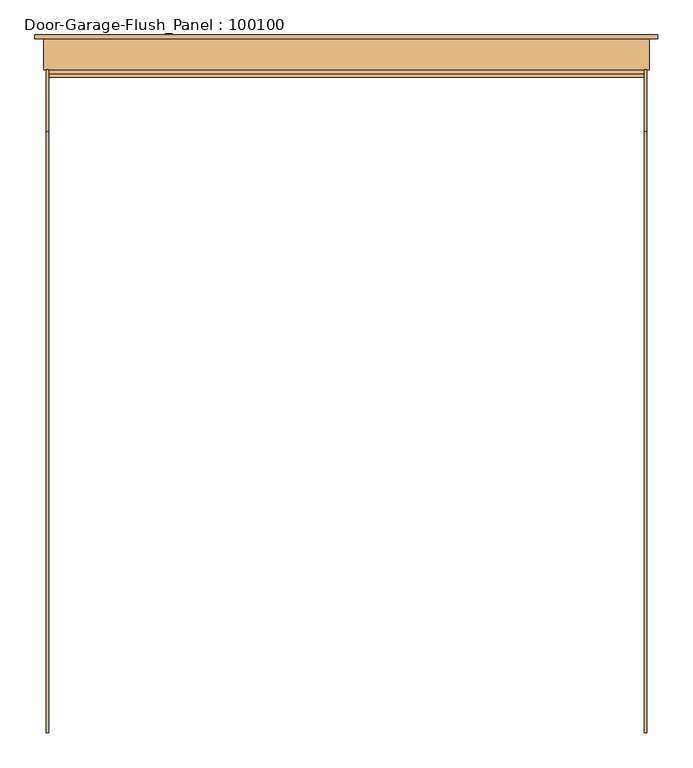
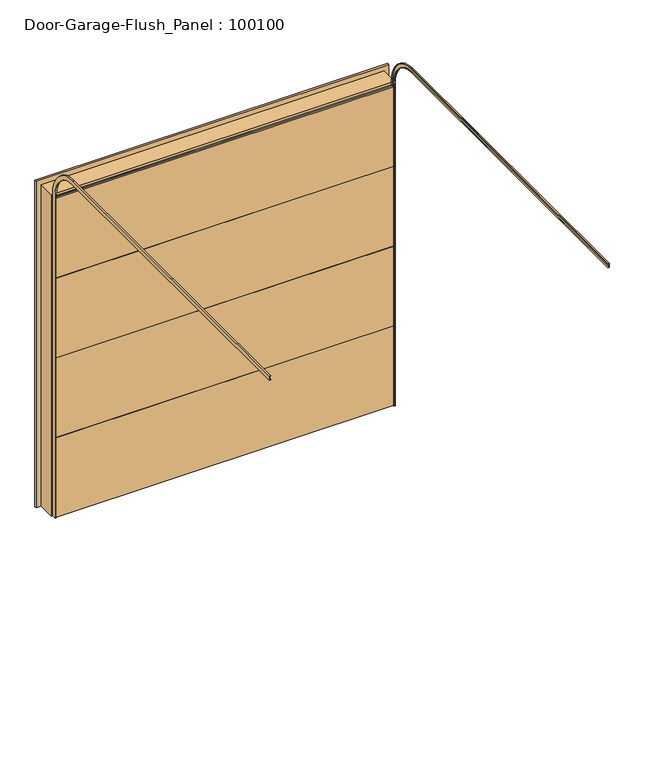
"""IFC4 building model written with IfcOpenShell, lengths in millimetres: door geometry, Door-Garage-Flush_Panel : 100100."""

from ifc_helpers import new_model, si_unit, frame, origin, place, context, project, spatial, polyline, circle_curve, outline, extrude, source, transform, mapped, element, save
from ifc_brep_helpers import plane_surface, cylinder_surface, revolved_surface, advanced_brep


def door_garage_flush_panel_100100_77b9260a(model_context):
    return source(origin(), model_context, "Body", "SolidModel", [
        extrude(outline(polyline([(-104.775, 3051.175), (-104.775, 3044.825), (-82.55, 3044.825), (-82.55, 2286.0), (-98.425, 2286.0), (-98.425, 2292.35), (-120.65, 2292.35), (-120.65, 3051.175), (-104.775, 3051.175)])), frame((-1524.0, 0.0, 0.0), z_axis=(1.0, 0.0, 0.0), x_axis=(0.0, 1.0, 0.0)), (0.0, 0.0, 1.0), 3048.0),
        extrude(outline(polyline([(-104.775, 2289.175), (-104.775, 2282.825), (-82.55, 2282.825), (-82.55, 1524.0), (-98.425, 1524.0), (-98.425, 1530.35), (-120.65, 1530.35), (-120.65, 2289.175), (-104.775, 2289.175)])), frame((-1524.0, 0.0, 0.0), z_axis=(1.0, 0.0, 0.0), x_axis=(0.0, 1.0, 0.0)), (0.0, 0.0, 1.0), 3048.0),
        extrude(outline(polyline([(-104.775, 1527.175), (-104.775, 1520.825), (-82.55, 1520.825), (-82.55, 762.0), (-98.425, 762.0), (-98.425, 768.35), (-120.65, 768.35), (-120.65, 1527.175), (-104.775, 1527.175)])), frame((-1524.0, 0.0, 0.0), z_axis=(1.0, 0.0, 0.0), x_axis=(0.0, 1.0, 0.0)), (0.0, 0.0, 1.0), 3048.0),
        extrude(outline(polyline([(-104.775, 765.175), (-104.775, 758.825), (-82.55, 758.825), (-82.55, 0.0), (-98.425, 0.0), (-98.425, 6.35), (-120.65, 6.35), (-120.65, 765.175), (-104.775, 765.175)])), frame((-1524.0, 0.0, 0.0), z_axis=(1.0, 0.0, 0.0), x_axis=(0.0, 1.0, 0.0)), (0.0, 0.0, 1.0), 3048.0),
        advanced_brep(
        [(1536.7, -3473.45, 3352.8), (1536.7, -3473.45, 3390.9), (1524.0, -3473.45, 3390.9), (1524.0, -3473.45, 3387.725), (1533.525, -3473.45, 3387.725), (1533.525, -3473.45, 3355.975), (1524.0, -3473.45, 3355.975), (1524.0, -3473.45, 3352.8), (1536.7, -400.05, 3352.8), (1536.7, -120.65, 3073.4), (1536.7, -120.65, 0.0), (1536.7, -82.55, 0.0), (1536.7, -82.55, 3073.4), (1536.7, -400.05, 3390.9), (1524.0, -400.05, 3390.9), (1524.0, -82.55, 3073.4), (1524.0, -82.55, 0.0), (1524.0, -85.725, 0.0), (1524.0, -85.725, 3073.4), (1524.0, -400.05, 3387.725), (1533.525, -400.05, 3387.725), (1533.525, -85.725, 3073.4), (1533.525, -85.725, 0.0), (1533.525, -117.475, 0.0), (1533.525, -117.475, 3073.4), (1533.525, -400.05, 3355.975), (1524.0, -400.05, 3355.975), (1524.0, -117.475, 3073.4), (1524.0, -117.475, 0.0), (1524.0, -120.65, 0.0), (1524.0, -120.65, 3073.4), (1524.0, -400.05, 3352.8)],
        [
            (0, 1),
            (1, 2),
            (2, 3),
            (3, 4),
            (4, 5),
            (5, 6),
            (6, 7),
            (7, 0),
            (0, 8),
            (8, 9, circle_curve(frame((1536.7, -400.05, 3073.4), z_axis=(-1.0, 0.0, 0.0), x_axis=(0.0, 0.0, 1.0)), 279.4)),
            (9, 10),
            (10, 11),
            (11, 12),
            (12, 13, circle_curve(frame((1536.7, -400.05, 3073.4), z_axis=(1.0, 0.0, 0.0), x_axis=(0.0, 0.0, 1.0)), 317.5)),
            (13, 1),
            (13, 14),
            (14, 2),
            (14, 15, circle_curve(frame((1524.0, -400.05, 3073.4), z_axis=(-1.0, 0.0, 0.0), x_axis=(0.0, 0.0, 1.0)), 317.5)),
            (15, 16),
            (16, 17),
            (17, 18),
            (18, 19, circle_curve(frame((1524.0, -400.05, 3073.4), z_axis=(1.0, 0.0, 0.0), x_axis=(0.0, 0.0, 1.0)), 314.325)),
            (19, 3),
            (19, 20),
            (20, 4),
            (20, 21, circle_curve(frame((1533.525, -400.05, 3073.4), z_axis=(-1.0, 0.0, 0.0), x_axis=(0.0, 0.0, 1.0)), 314.325)),
            (21, 22),
            (22, 23),
            (23, 24),
            (24, 25, circle_curve(frame((1533.525, -400.05, 3073.4), z_axis=(1.0, 0.0, 0.0), x_axis=(0.0, 0.0, 1.0)), 282.575)),
            (25, 5),
            (25, 26),
            (26, 6),
            (26, 27, circle_curve(frame((1524.0, -400.05, 3073.4), z_axis=(-1.0, 0.0, 0.0), x_axis=(0.0, 0.0, 1.0)), 282.575)),
            (27, 28),
            (28, 29),
            (29, 30),
            (30, 31, circle_curve(frame((1524.0, -400.05, 3073.4), z_axis=(1.0, 0.0, 0.0), x_axis=(0.0, 0.0, 1.0)), 279.4)),
            (31, 7),
            (31, 8),
            (12, 15),
            (18, 21),
            (24, 27),
            (30, 9),
            (10, 29),
            (28, 23),
            (22, 17),
            (16, 11),
        ],
        [
            plane_surface(frame((0.0, -3473.45, 3352.8), z_axis=(0.0, -1.0, 0.0), x_axis=(1.0, 0.0, 0.0))),
            plane_surface(frame((1536.7, -3473.45, 3352.8), z_axis=(1.0, 0.0, 0.0), x_axis=(0.0, 1.0, 0.0))),
            plane_surface(frame((1536.7, -3473.45, 3390.9), z_axis=(0.0, 0.0, 1.0), x_axis=(0.0, 1.0, 0.0))),
            plane_surface(frame((1524.0, -3473.45, 3390.9), z_axis=(-1.0, 0.0, 0.0), x_axis=(0.0, 1.0, 0.0))),
            plane_surface(frame((1524.0, -3473.45, 3387.725), z_axis=(0.0, 0.0, -1.0), x_axis=(0.0, 1.0, 0.0))),
            plane_surface(frame((1533.525, -3473.45, 3387.725), z_axis=(-1.0, 0.0, 0.0), x_axis=(0.0, 1.0, 0.0))),
            plane_surface(frame((1533.525, -3473.45, 3355.975), z_axis=(0.0, 0.0, 1.0), x_axis=(0.0, 1.0, 0.0))),
            plane_surface(frame((1524.0, -3473.45, 3355.975), z_axis=(-1.0, 0.0, 0.0), x_axis=(0.0, 1.0, 0.0))),
            plane_surface(frame((1524.0, -3473.45, 3352.8), z_axis=(0.0, 0.0, -1.0), x_axis=(0.0, 1.0, 0.0))),
            cylinder_surface(frame((0.0, -400.05, 3073.4), z_axis=(-1.0, 0.0, 0.0), x_axis=(0.0, 0.0, 1.0)), 317.5),
            revolved_surface(polyline([(1524.0, -400.05, 3387.725), (1533.525, -400.05, 3387.725)]), (0.0, -400.05, 3073.4), (-1.0, 0.0, 0.0)),
            cylinder_surface(frame((0.0, -400.05, 3073.4), z_axis=(-1.0, 0.0, 0.0), x_axis=(0.0, 0.0, 1.0)), 282.575),
            revolved_surface(polyline([(1524.0, -400.05, 3352.8), (1536.7, -400.05, 3352.8)]), (0.0, -400.05, 3073.4), (-1.0, 0.0, 0.0)),
            plane_surface(frame((0.0, -120.65, 0.0), z_axis=(0.0, 0.0, -1.0), x_axis=(1.0, 0.0, 0.0))),
            plane_surface(frame((1536.7, -82.55, 3073.4), z_axis=(0.0, 1.0, 0.0), x_axis=(0.0, 0.0, -1.0))),
            plane_surface(frame((1524.0, -85.725, 3073.4), z_axis=(0.0, -1.0, 0.0), x_axis=(0.0, 0.0, -1.0))),
            plane_surface(frame((1533.525, -117.475, 3073.4), z_axis=(0.0, 1.0, 0.0), x_axis=(0.0, 0.0, -1.0))),
            plane_surface(frame((1524.0, -120.65, 3073.4), z_axis=(0.0, -1.0, 0.0), x_axis=(0.0, 0.0, -1.0))),
        ],
        [
            (0, [[1, 2, 3, 4, 5, 6, 7, 8]]),
            (1, [[-1, 9, 10, 11, 12, 13, 14, 15]]),
            (2, [[-2, -15, 16, 17]]),
            (3, [[-3, -17, 18, 19, 20, 21, 22, 23]]),
            (4, [[-4, -23, 24, 25]]),
            (5, [[-5, -25, 26, 27, 28, 29, 30, 31]]),
            (6, [[-6, -31, 32, 33]]),
            (7, [[-7, -33, 34, 35, 36, 37, 38, 39]]),
            (8, [[-8, -39, 40, -9]]),
            (9, [[-18, -16, -14, 41]]),
            (10, [[-26, -24, -22, 42]]),
            (11, [[-34, -32, -30, 43]]),
            (12, [[-10, -40, -38, 44]]),
            (13, [[45, -36, 46, -28, 47, -20, 48, -12]]),
            (14, [[-41, -13, -48, -19]]),
            (15, [[-42, -21, -47, -27]]),
            (16, [[-43, -29, -46, -35]]),
            (17, [[-44, -37, -45, -11]]),
        ],
    ),
        advanced_brep(
        [(-1536.7, -3473.45, 3352.8), (-1524.0, -3473.45, 3352.8), (-1524.0, -3473.45, 3355.975), (-1533.525, -3473.45, 3355.975), (-1533.525, -3473.45, 3387.725), (-1524.0, -3473.45, 3387.725), (-1524.0, -3473.45, 3390.9), (-1536.7, -3473.45, 3390.9), (-1536.7, -400.05, 3352.8), (-1524.0, -400.05, 3352.8), (-1524.0, -120.65, 3073.4), (-1524.0, -120.65, 0.0), (-1524.0, -117.475, 0.0), (-1524.0, -117.475, 3073.4), (-1524.0, -400.05, 3355.975), (-1533.525, -400.05, 3355.975), (-1533.525, -117.475, 3073.4), (-1533.525, -117.475, 0.0), (-1533.525, -85.725, 0.0), (-1533.525, -85.725, 3073.4), (-1533.525, -400.05, 3387.725), (-1524.0, -400.05, 3387.725), (-1524.0, -85.725, 3073.4), (-1524.0, -85.725, 0.0), (-1524.0, -82.55, 0.0), (-1524.0, -82.55, 3073.4), (-1524.0, -400.05, 3390.9), (-1536.7, -400.05, 3390.9), (-1536.7, -82.55, 3073.4), (-1536.7, -82.55, 0.0), (-1536.7, -120.65, 0.0), (-1536.7, -120.65, 3073.4)],
        [
            (0, 1),
            (1, 2),
            (2, 3),
            (3, 4),
            (4, 5),
            (5, 6),
            (6, 7),
            (7, 0),
            (0, 8),
            (8, 9),
            (9, 1),
            (9, 10, circle_curve(frame((-1524.0, -400.05, 3073.4), z_axis=(-1.0, 0.0, 0.0), x_axis=(0.0, 0.0, 1.0)), 279.4)),
            (10, 11),
            (11, 12),
            (12, 13),
            (13, 14, circle_curve(frame((-1524.0, -400.05, 3073.4), z_axis=(1.0, 0.0, 0.0), x_axis=(0.0, 0.0, 1.0)), 282.575)),
            (14, 2),
            (14, 15),
            (15, 3),
            (15, 16, circle_curve(frame((-1533.525, -400.05, 3073.4), z_axis=(-1.0, 0.0, 0.0), x_axis=(0.0, 0.0, 1.0)), 282.575)),
            (16, 17),
            (17, 18),
            (18, 19),
            (19, 20, circle_curve(frame((-1533.525, -400.05, 3073.4), z_axis=(1.0, 0.0, 0.0), x_axis=(0.0, 0.0, 1.0)), 314.325)),
            (20, 4),
            (20, 21),
            (21, 5),
            (21, 22, circle_curve(frame((-1524.0, -400.05, 3073.4), z_axis=(-1.0, 0.0, 0.0), x_axis=(0.0, 0.0, 1.0)), 314.325)),
            (22, 23),
            (23, 24),
            (24, 25),
            (25, 26, circle_curve(frame((-1524.0, -400.05, 3073.4), z_axis=(1.0, 0.0, 0.0), x_axis=(0.0, 0.0, 1.0)), 317.5)),
            (26, 6),
            (26, 27),
            (27, 7),
            (27, 28, circle_curve(frame((-1536.7, -400.05, 3073.4), z_axis=(-1.0, 0.0, 0.0), x_axis=(0.0, 0.0, 1.0)), 317.5)),
            (28, 29),
            (29, 30),
            (30, 31),
            (31, 8, circle_curve(frame((-1536.7, -400.05, 3073.4), z_axis=(1.0, 0.0, 0.0), x_axis=(0.0, 0.0, 1.0)), 279.4)),
            (31, 10),
            (13, 16),
            (19, 22),
            (25, 28),
            (29, 24),
            (23, 18),
            (17, 12),
            (11, 30),
        ],
        [
            plane_surface(frame((0.0, -3473.45, 3352.8), z_axis=(0.0, -1.0, 0.0), x_axis=(1.0, 0.0, 0.0))),
            plane_surface(frame((-1536.7, -3473.45, 3352.8), z_axis=(0.0, 0.0, -1.0), x_axis=(0.0, 1.0, 0.0))),
            plane_surface(frame((-1524.0, -3473.45, 3352.8), z_axis=(1.0, 0.0, 0.0), x_axis=(0.0, 1.0, 0.0))),
            plane_surface(frame((-1524.0, -3473.45, 3355.975), z_axis=(0.0, 0.0, 1.0), x_axis=(0.0, 1.0, 0.0))),
            plane_surface(frame((-1533.525, -3473.45, 3355.975), z_axis=(1.0, 0.0, 0.0), x_axis=(0.0, 1.0, 0.0))),
            plane_surface(frame((-1533.525, -3473.45, 3387.725), z_axis=(0.0, 0.0, -1.0), x_axis=(0.0, 1.0, 0.0))),
            plane_surface(frame((-1524.0, -3473.45, 3387.725), z_axis=(1.0, 0.0, 0.0), x_axis=(0.0, 1.0, 0.0))),
            plane_surface(frame((-1524.0, -3473.45, 3390.9), z_axis=(0.0, 0.0, 1.0), x_axis=(0.0, 1.0, 0.0))),
            plane_surface(frame((-1536.7, -3473.45, 3390.9), z_axis=(-1.0, 0.0, 0.0), x_axis=(0.0, 1.0, 0.0))),
            revolved_surface(polyline([(-1536.7, -400.05, 3352.8), (-1524.0, -400.05, 3352.8)]), (0.0, -400.05, 3073.4), (-1.0, 0.0, 0.0)),
            cylinder_surface(frame((0.0, -400.05, 3073.4), z_axis=(-1.0, 0.0, 0.0), x_axis=(0.0, 0.0, 1.0)), 282.575),
            revolved_surface(polyline([(-1533.525, -400.05, 3387.725), (-1524.0, -400.05, 3387.725)]), (0.0, -400.05, 3073.4), (-1.0, 0.0, 0.0)),
            cylinder_surface(frame((0.0, -400.05, 3073.4), z_axis=(-1.0, 0.0, 0.0), x_axis=(0.0, 0.0, 1.0)), 317.5),
            plane_surface(frame((0.0, -120.65, 0.0), z_axis=(0.0, 0.0, -1.0), x_axis=(1.0, 0.0, 0.0))),
            plane_surface(frame((-1536.7, -120.65, 3073.4), z_axis=(0.0, -1.0, 0.0), x_axis=(0.0, 0.0, -1.0))),
            plane_surface(frame((-1524.0, -117.475, 3073.4), z_axis=(0.0, 1.0, 0.0), x_axis=(0.0, 0.0, -1.0))),
            plane_surface(frame((-1533.525, -85.725, 3073.4), z_axis=(0.0, -1.0, 0.0), x_axis=(0.0, 0.0, -1.0))),
            plane_surface(frame((-1524.0, -82.55, 3073.4), z_axis=(0.0, 1.0, 0.0), x_axis=(0.0, 0.0, -1.0))),
        ],
        [
            (0, [[1, 2, 3, 4, 5, 6, 7, 8]]),
            (1, [[-1, 9, 10, 11]]),
            (2, [[-2, -11, 12, 13, 14, 15, 16, 17]]),
            (3, [[-3, -17, 18, 19]]),
            (4, [[-4, -19, 20, 21, 22, 23, 24, 25]]),
            (5, [[-5, -25, 26, 27]]),
            (6, [[-6, -27, 28, 29, 30, 31, 32, 33]]),
            (7, [[-7, -33, 34, 35]]),
            (8, [[-8, -35, 36, 37, 38, 39, 40, -9]]),
            (9, [[-12, -10, -40, 41]]),
            (10, [[-20, -18, -16, 42]]),
            (11, [[-28, -26, -24, 43]]),
            (12, [[-36, -34, -32, 44]]),
            (13, [[-38, 45, -30, 46, -22, 47, -14, 48]]),
            (14, [[-41, -39, -48, -13]]),
            (15, [[-42, -15, -47, -21]]),
            (16, [[-43, -23, -46, -29]]),
            (17, [[-44, -31, -45, -37]]),
        ],
    ),
        extrude(outline(polyline([(0.0, 1524.0), (0.0, 1549.4), (3073.4, 1549.4), (3073.4, -1549.4), (0.0, -1549.4), (0.0, -1524.0), (3048.0, -1524.0), (3048.0, 1524.0), (0.0, 1524.0)])), frame((0.0, -82.55, 0.0), z_axis=(0.0, 1.0, 0.0), x_axis=(0.0, 0.0, 1.0)), (0.0, 0.0, 1.0), 158.75),
        extrude(outline(polyline([(0.0, 1530.35), (0.0, 1593.85), (3117.85, 1593.85), (3117.85, -1593.85), (0.0, -1593.85), (0.0, -1530.35), (3054.35, -1530.35), (3054.35, 1530.35), (0.0, 1530.35)])), frame((0.0, 76.2, 0.0), z_axis=(0.0, 1.0, 0.0), x_axis=(0.0, 0.0, 1.0)), (0.0, 0.0, 1.0), 19.05),
    ])


if __name__ == "__main__":
    model = new_model("IFC4")
    model_context = context("Model", 3, world=origin())
    ifc_project = project(units=[si_unit("LENGTHUNIT", "METRE", prefix="MILLI")], contexts=[model_context])
    site = spatial("IfcSite", under=ifc_project)
    building = spatial("IfcBuilding", under=site)
    placement = place(None, origin())
    door_garage_flush_panel_100100_shape = door_garage_flush_panel_100100_77b9260a(model_context)
    element("IfcDoor", 1, ObjectType="Door-Garage-Flush_Panel : 100100", at=placement, inside=building, context=model_context, shape_type="MappedRepresentation", body=[
        mapped(door_garage_flush_panel_100100_shape, transform((0.0, 0.0, 0.0), x_axis=(1.0, 0.0, 0.0), y_axis=(0.0, 1.0, 0.0), z_axis=(0.0, 0.0, 1.0))),
    ])
    save(model, "model.ifc")
